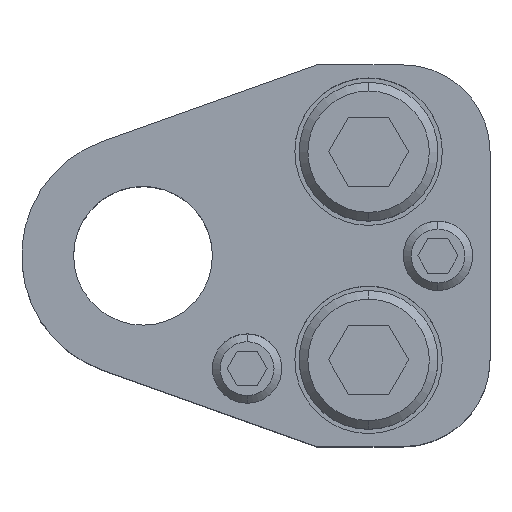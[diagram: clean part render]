
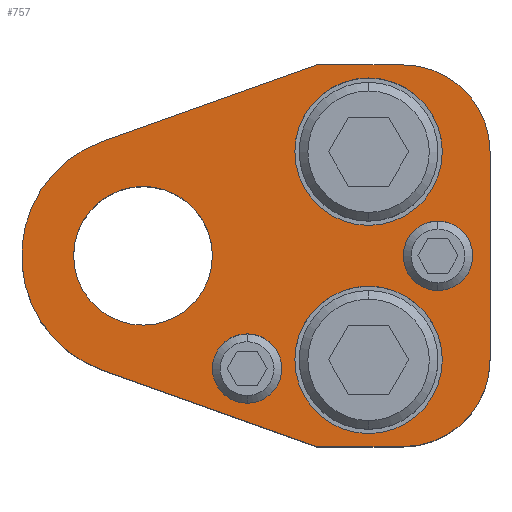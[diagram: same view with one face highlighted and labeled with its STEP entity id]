
A CAD part, top view. The second image highlights one B-rep face of the part: STEP entity #757.
In plain terms, the highlighted planar face has unit normal (0, 0, 1).
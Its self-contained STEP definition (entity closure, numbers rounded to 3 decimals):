
#428=LINE('',#3648,#598);
#433=LINE('',#3663,#603);
#437=LINE('',#3675,#607);
#442=LINE('',#3684,#612);
#447=LINE('',#3698,#617);
#598=VECTOR('',#2943,1.);
#603=VECTOR('',#2956,1.);
#607=VECTOR('',#2968,1.);
#612=VECTOR('',#2975,1.);
#617=VECTOR('',#2988,1.);
#757=ADVANCED_FACE('',(#863,#864,#865,#866,#867,#868),#834,.T.);
#834=PLANE('',#2455);
#863=FACE_BOUND('',#1003,.T.);
#864=FACE_BOUND('',#1004,.T.);
#865=FACE_BOUND('',#1005,.T.);
#866=FACE_BOUND('',#1006,.T.);
#867=FACE_BOUND('',#1007,.T.);
#868=FACE_BOUND('',#1008,.T.);
#1003=EDGE_LOOP('',(#1518,#1519,#1520,#1521,#1522,#1523,#1524,#1525));
#1004=EDGE_LOOP('',(#1526,#1527));
#1005=EDGE_LOOP('',(#1528,#1529));
#1006=EDGE_LOOP('',(#1530,#1531));
#1007=EDGE_LOOP('',(#1532,#1533));
#1008=EDGE_LOOP('',(#1534,#1535));
#1518=ORIENTED_EDGE('',*,*,#2038,.T.);
#1519=ORIENTED_EDGE('',*,*,#2020,.T.);
#1520=ORIENTED_EDGE('',*,*,#2024,.T.);
#1521=ORIENTED_EDGE('',*,*,#2027,.T.);
#1522=ORIENTED_EDGE('',*,*,#2030,.T.);
#1523=ORIENTED_EDGE('',*,*,#2033,.T.);
#1524=ORIENTED_EDGE('',*,*,#2045,.T.);
#1525=ORIENTED_EDGE('',*,*,#2041,.T.);
#1526=ORIENTED_EDGE('',*,*,#2080,.F.);
#1527=ORIENTED_EDGE('',*,*,#2081,.F.);
#1528=ORIENTED_EDGE('',*,*,#2082,.F.);
#1529=ORIENTED_EDGE('',*,*,#2083,.F.);
#1530=ORIENTED_EDGE('',*,*,#2070,.F.);
#1531=ORIENTED_EDGE('',*,*,#2066,.F.);
#1532=ORIENTED_EDGE('',*,*,#2064,.F.);
#1533=ORIENTED_EDGE('',*,*,#2060,.F.);
#1534=ORIENTED_EDGE('',*,*,#2084,.T.);
#1535=ORIENTED_EDGE('',*,*,#2085,.T.);
#1757=VERTEX_POINT('',#3647);
#1758=VERTEX_POINT('',#3649);
#1761=VERTEX_POINT('',#3656);
#1763=VERTEX_POINT('',#3662);
#1765=VERTEX_POINT('',#3668);
#1767=VERTEX_POINT('',#3674);
#1771=VERTEX_POINT('',#3685);
#1773=VERTEX_POINT('',#3691);
#1787=VERTEX_POINT('',#3733);
#1788=VERTEX_POINT('',#3734);
#1791=VERTEX_POINT('',#3745);
#1792=VERTEX_POINT('',#3746);
#1799=VERTEX_POINT('',#3773);
#1800=VERTEX_POINT('',#3774);
#1801=VERTEX_POINT('',#3777);
#1802=VERTEX_POINT('',#3778);
#1803=VERTEX_POINT('',#3781);
#1804=VERTEX_POINT('',#3782);
#2020=EDGE_CURVE('',#1758,#1757,#428,.T.);
#2024=EDGE_CURVE('',#1757,#1761,#2191,.T.);
#2027=EDGE_CURVE('',#1761,#1763,#433,.T.);
#2030=EDGE_CURVE('',#1763,#1765,#2193,.T.);
#2033=EDGE_CURVE('',#1765,#1767,#437,.T.);
#2038=EDGE_CURVE('',#1771,#1758,#442,.T.);
#2041=EDGE_CURVE('',#1773,#1771,#2196,.T.);
#2045=EDGE_CURVE('',#1767,#1773,#447,.T.);
#2060=EDGE_CURVE('',#1787,#1788,#2205,.T.);
#2064=EDGE_CURVE('',#1788,#1787,#2207,.T.);
#2066=EDGE_CURVE('',#1791,#1792,#2209,.T.);
#2070=EDGE_CURVE('',#1792,#1791,#2211,.T.);
#2080=EDGE_CURVE('',#1799,#1800,#2217,.T.);
#2081=EDGE_CURVE('',#1800,#1799,#2218,.T.);
#2082=EDGE_CURVE('',#1801,#1802,#2219,.T.);
#2083=EDGE_CURVE('',#1802,#1801,#2220,.T.);
#2084=EDGE_CURVE('',#1803,#1804,#2221,.T.);
#2085=EDGE_CURVE('',#1804,#1803,#2222,.T.);
#2191=CIRCLE('',#2406,10.);
#2193=CIRCLE('',#2410,10.);
#2196=CIRCLE('',#2416,14.);
#2205=CIRCLE('',#2429,4.);
#2207=CIRCLE('',#2432,4.);
#2209=CIRCLE('',#2435,4.);
#2211=CIRCLE('',#2438,4.);
#2217=CIRCLE('',#2449,8.5);
#2218=CIRCLE('',#2450,8.5);
#2219=CIRCLE('',#2451,8.5);
#2220=CIRCLE('',#2452,8.5);
#2221=CIRCLE('',#2453,8.);
#2222=CIRCLE('',#2454,8.);
#2406=AXIS2_PLACEMENT_3D('',#3657,#2949,#2950);
#2410=AXIS2_PLACEMENT_3D('',#3669,#2961,#2962);
#2416=AXIS2_PLACEMENT_3D('',#3690,#2981,#2982);
#2429=AXIS2_PLACEMENT_3D('',#3732,#3016,#3017);
#2432=AXIS2_PLACEMENT_3D('',#3741,#3024,#3025);
#2435=AXIS2_PLACEMENT_3D('',#3744,#3030,#3031);
#2438=AXIS2_PLACEMENT_3D('',#3753,#3038,#3039);
#2449=AXIS2_PLACEMENT_3D('',#3772,#3064,#3065);
#2450=AXIS2_PLACEMENT_3D('',#3775,#3066,#3067);
#2451=AXIS2_PLACEMENT_3D('',#3776,#3068,#3069);
#2452=AXIS2_PLACEMENT_3D('',#3779,#3070,#3071);
#2453=AXIS2_PLACEMENT_3D('',#3780,#3072,#3073);
#2454=AXIS2_PLACEMENT_3D('',#3783,#3074,#3075);
#2455=AXIS2_PLACEMENT_3D('',#3784,#3076,#3077);
#2943=DIRECTION('',(1.,0.,0.));
#2949=DIRECTION('',(0.,0.,1.));
#2950=DIRECTION('',(-0.707,0.707,0.));
#2956=DIRECTION('',(0.,1.,0.));
#2961=DIRECTION('',(0.,0.,1.));
#2962=DIRECTION('',(-0.707,-0.707,0.));
#2968=DIRECTION('',(-1.,0.,0.));
#2975=DIRECTION('',(0.942,-0.336,0.));
#2981=DIRECTION('',(0.,0.,1.));
#2982=DIRECTION('',(1.,0.,0.));
#2988=DIRECTION('',(-0.942,-0.336,0.));
#3016=DIRECTION('',(0.,0.,1.));
#3017=DIRECTION('',(-1.,0.,0.));
#3024=DIRECTION('',(0.,0.,1.));
#3025=DIRECTION('',(1.,0.,0.));
#3030=DIRECTION('',(0.,0.,1.));
#3031=DIRECTION('',(-1.,0.,0.));
#3038=DIRECTION('',(0.,0.,1.));
#3039=DIRECTION('',(1.,0.,0.));
#3064=DIRECTION('',(0.,0.,1.));
#3065=DIRECTION('',(1.,0.,0.));
#3066=DIRECTION('',(0.,0.,1.));
#3067=DIRECTION('',(-1.,0.,0.));
#3068=DIRECTION('',(0.,0.,1.));
#3069=DIRECTION('',(1.,0.,0.));
#3070=DIRECTION('',(0.,0.,1.));
#3071=DIRECTION('',(-1.,0.,0.));
#3072=DIRECTION('',(0.,0.,-1.));
#3073=DIRECTION('',(-1.,0.,0.));
#3074=DIRECTION('',(0.,0.,-1.));
#3075=DIRECTION('',(1.,0.,0.));
#3076=DIRECTION('',(0.,0.,1.));
#3077=DIRECTION('',(0.942,-0.336,0.));
#3647=CARTESIAN_POINT('',(30.,-22.,30.));
#3648=CARTESIAN_POINT('',(20.,-22.,30.));
#3649=CARTESIAN_POINT('',(20.,-22.,30.));
#3656=CARTESIAN_POINT('',(40.,-12.,30.));
#3657=CARTESIAN_POINT('',(30.,-12.,30.));
#3662=CARTESIAN_POINT('',(40.,12.,30.));
#3663=CARTESIAN_POINT('',(40.,12.,30.));
#3668=CARTESIAN_POINT('',(30.,22.,30.));
#3669=CARTESIAN_POINT('',(30.,12.,30.));
#3674=CARTESIAN_POINT('',(20.,22.,30.));
#3675=CARTESIAN_POINT('',(20.,22.,30.));
#3684=CARTESIAN_POINT('',(20.,-22.,30.));
#3685=CARTESIAN_POINT('',(-4.704,-13.186,30.));
#3690=CARTESIAN_POINT('',(0.,0.,30.));
#3691=CARTESIAN_POINT('',(-4.704,13.186,30.));
#3698=CARTESIAN_POINT('',(20.,22.,30.));
#3732=CARTESIAN_POINT('',(12.,-13.,30.));
#3733=CARTESIAN_POINT('',(12.,-17.,30.));
#3734=CARTESIAN_POINT('',(12.,-9.,30.));
#3741=CARTESIAN_POINT('',(12.,-13.,30.));
#3744=CARTESIAN_POINT('',(34.,0.,30.));
#3745=CARTESIAN_POINT('',(34.,-4.,30.));
#3746=CARTESIAN_POINT('',(34.,4.,30.));
#3753=CARTESIAN_POINT('',(34.,0.,30.));
#3772=CARTESIAN_POINT('',(26.,12.,30.));
#3773=CARTESIAN_POINT('',(26.,20.5,30.));
#3774=CARTESIAN_POINT('',(26.,3.5,30.));
#3775=CARTESIAN_POINT('',(26.,12.,30.));
#3776=CARTESIAN_POINT('',(26.,-12.,30.));
#3777=CARTESIAN_POINT('',(26.,-3.5,30.));
#3778=CARTESIAN_POINT('',(26.,-20.5,30.));
#3779=CARTESIAN_POINT('',(26.,-12.,30.));
#3780=CARTESIAN_POINT('',(0.,0.,30.));
#3781=CARTESIAN_POINT('',(0.,8.,30.));
#3782=CARTESIAN_POINT('',(0.,-8.,30.));
#3783=CARTESIAN_POINT('',(0.,0.,30.));
#3784=CARTESIAN_POINT('',(-4.704,-13.186,30.));
